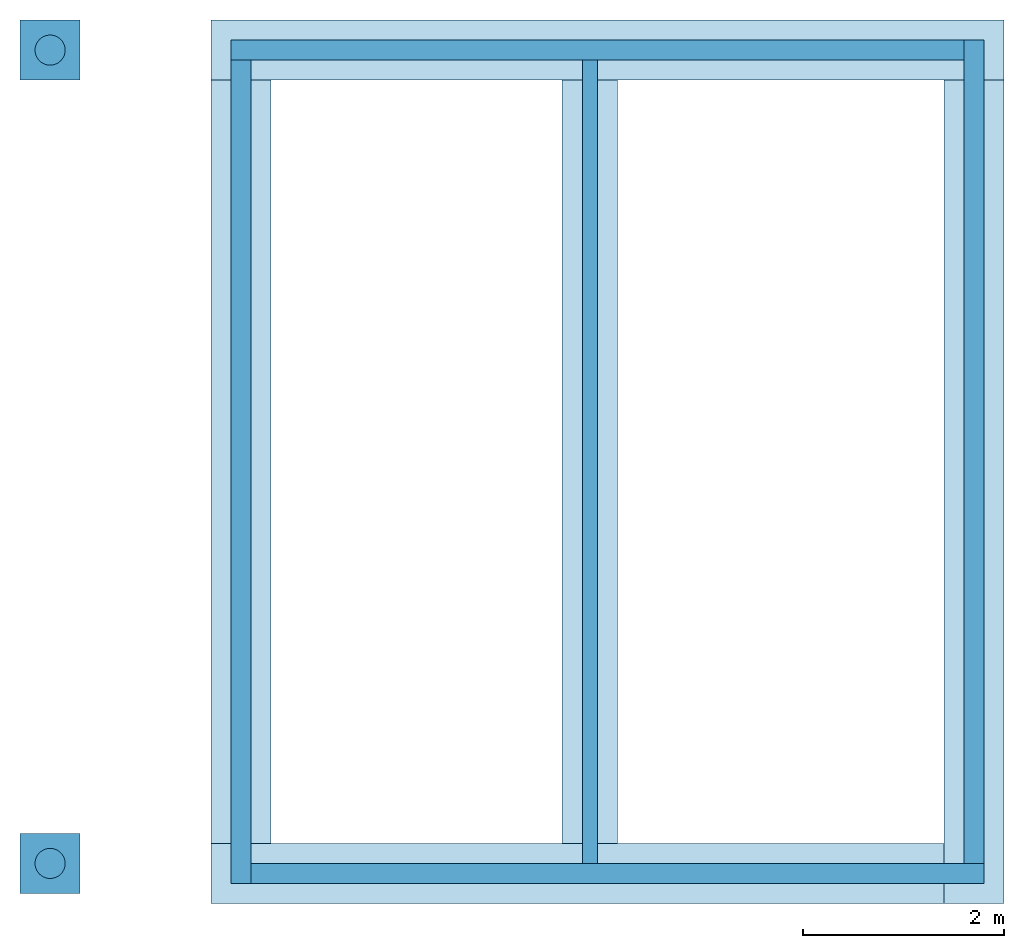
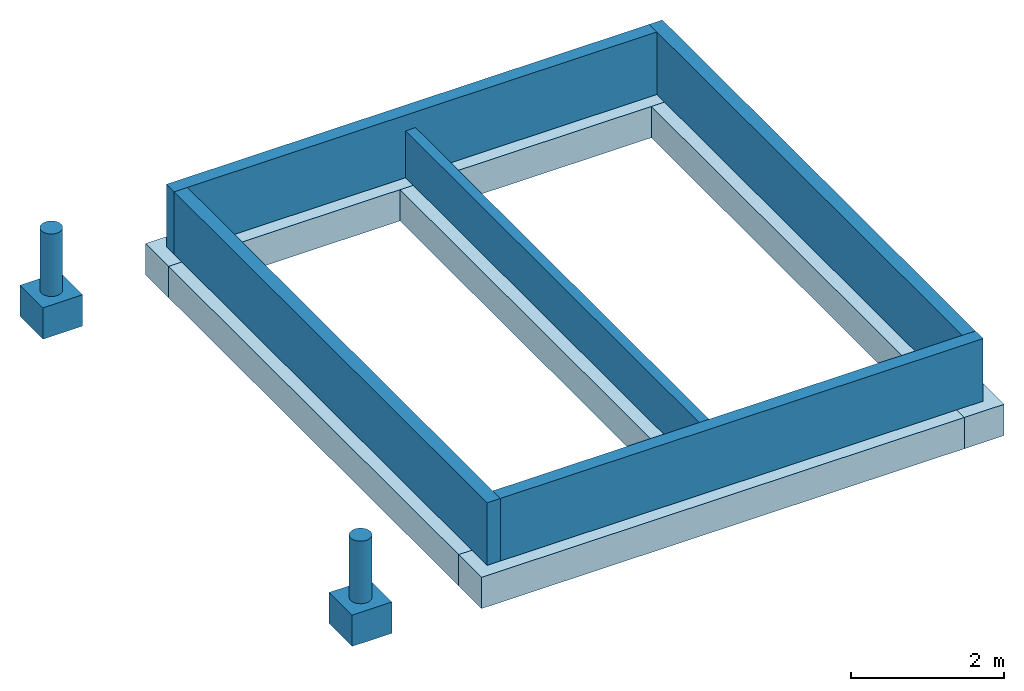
# One storey: 5 footings, 5 walls, 2 columns, 2 slabs.
"""IFC2X3 building model written with IfcOpenShell, lengths in metres."""

from ifc_helpers import new_model, entity, si_unit, converted_unit, derived_unit, direction, frame, frame_2d, origin, origin_2d_with_axis, place, context, subcontext, project, spatial, polyline, circle_curve, parameter, trimmed, segment, composite_curve, rectangle, outline, extrude, clip, bounded_halfspace, source, transform, mapped, material, layer, layer_set, layer_usage, type_object, type_shapes, element, save


model = new_model("IFC2X3")

# Units and contexts
model_context = context("Model", 3, precision=1e-05, world=origin(), true_north=direction((6.12303176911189e-17, 1.0)))
context_of_model = context(None, 3, precision=1e-05, world=origin(), true_north=direction((6.12303176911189e-17, 1.0)))
body_context = subcontext(model_context, "Body", "Model", "MODEL_VIEW")
ifc_project = project(units=[si_unit("LENGTHUNIT", "METRE"), si_unit("AREAUNIT", "SQUARE_METRE"), si_unit("VOLUMEUNIT", "CUBIC_METRE"), converted_unit("PLANEANGLEUNIT", "DEGREE", entity("IfcRatioMeasure", 0.0174532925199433), si_unit("PLANEANGLEUNIT", "RADIAN"), dimensions=[0, 0, 0, 0, 0, 0, 0]), si_unit("MASSUNIT", "GRAM", prefix="KILO"), si_unit("TIMEUNIT", "SECOND"), si_unit("FREQUENCYUNIT", "HERTZ"), si_unit("THERMODYNAMICTEMPERATUREUNIT", "DEGREE_CELSIUS"), derived_unit("THERMALTRANSMITTANCEUNIT", [(si_unit("MASSUNIT", "GRAM", prefix="KILO"), 1), (si_unit("THERMODYNAMICTEMPERATUREUNIT", "KELVIN"), -1), (si_unit("TIMEUNIT", "SECOND"), -3)]), derived_unit("VOLUMETRICFLOWRATEUNIT", [(si_unit("LENGTHUNIT", "METRE"), 3), (si_unit("TIMEUNIT", "SECOND"), -1)]), si_unit("ELECTRICCURRENTUNIT", "AMPERE"), si_unit("ELECTRICVOLTAGEUNIT", "VOLT"), si_unit("POWERUNIT", "WATT"), si_unit("FORCEUNIT", "NEWTON", prefix="KILO"), si_unit("ILLUMINANCEUNIT", "LUX"), si_unit("LUMINOUSFLUXUNIT", "LUMEN"), si_unit("LUMINOUSINTENSITYUNIT", "CANDELA"), si_unit("PRESSUREUNIT", "PASCAL")], contexts=[model_context, context_of_model])

# Site, building, storey
site_placement = place(None, origin())
site = spatial("IfcSite", under=ifc_project, at=site_placement, Name="Default", CompositionType="ELEMENT")
building_placement = place(site_placement, origin())
building = spatial("IfcBuilding", under=site, at=building_placement, CompositionType="ELEMENT")
storey_placement = place(building_placement, frame((0.0, 0.0, -1.0)))
storey = spatial("IfcBuildingStorey", under=building, at=storey_placement, Name="0_Fondations", CompositionType="ELEMENT", Elevation=-1.00000000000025)

# Footings
ifc_material_1 = material(Name="Maçonnerie - Béton")
footing_1_placement = place(storey_placement, origin())
element("IfcFooting", 1, at=footing_1_placement, inside=storey, material=ifc_material_1, Name="Semelle filante:Soubassement 30 cm/30 cm x 50 cm", ObjectType="Semelle filante:Soubassement 30 cm/30 cm x 50 cm", PredefinedType="STRIP_FOOTING", context=body_context, shape_type="SweptSolid", body=[
    extrude(rectangle(XDim=7.9, YDim=0.6, at=frame_2d((0.0437500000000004, 0.149999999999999), x_axis=(1.0, 0.0))), frame((-5.73617592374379, 4.92538687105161, -0.5)), (0.0, 0.0, 1.0), 0.5),
])
footing_2_placement = place(storey_placement, origin())
element("IfcFooting", 2, at=footing_2_placement, inside=storey, material=ifc_material_1, Name="Semelle filante:Soubassement 30 cm/30 cm x 50 cm", ObjectType="Semelle filante:Soubassement 30 cm/30 cm x 50 cm", PredefinedType="STRIP_FOOTING", context=body_context, shape_type="SweptSolid", body=[
    extrude(rectangle(XDim=8.2, YDim=0.6, at=frame_2d((0.7, -0.0599999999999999), x_axis=(1.0, 0.0))), frame((-2.10242592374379, -0.0246131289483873, -0.5), z_axis=(0.0, 0.0, 1.0), x_axis=(0.0, 1.0, 0.0)), (0.0, 0.0, 1.0), 0.5),
])
footing_3_placement = place(storey_placement, origin())
element("IfcFooting", 3, at=footing_3_placement, inside=storey, material=ifc_material_1, Name="Semelle filante:Soubassement 30 cm/30 cm x 50 cm", ObjectType="Semelle filante:Soubassement 30 cm/30 cm x 50 cm", PredefinedType="STRIP_FOOTING", context=body_context, shape_type="SweptSolid", body=[
    extrude(rectangle(XDim=7.3, YDim=0.6, at=frame_2d((0.400000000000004, -0.128571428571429), x_axis=(1.0, 0.0))), frame((-6.39242592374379, -2.99604170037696, -0.5)), (0.0, 0.0, 1.0), 0.5),
])
footing_4_placement = place(storey_placement, origin())
element("IfcFooting", 4, at=footing_4_placement, inside=storey, material=ifc_material_1, Name="Semelle filante:Soubassement 30 cm/30 cm x 50 cm", ObjectType="Semelle filante:Soubassement 30 cm/30 cm x 50 cm", PredefinedType="STRIP_FOOTING", context=body_context, shape_type="SweptSolid", body=[
    extrude(rectangle(XDim=7.6, YDim=0.6, at=origin_2d_with_axis()), frame((-9.34242592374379, 0.975386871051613, -0.5), z_axis=(0.0, 0.0, 1.0), x_axis=(0.0, -1.0, 0.0)), (0.0, 0.0, 1.0), 0.5),
])
footing_5_placement = place(storey_placement, origin())
element("IfcFooting", 5, at=footing_5_placement, inside=storey, material=ifc_material_1, Name="Semelle filante:Soubassement 30 cm/30 cm x 50 cm", ObjectType="Semelle filante:Soubassement 30 cm/30 cm x 50 cm", PredefinedType="STRIP_FOOTING", context=body_context, shape_type="SweptSolid", body=[
    extrude(rectangle(XDim=7.6, YDim=0.550000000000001, at=origin_2d_with_axis()), frame((-5.8674259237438, 0.975386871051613, -0.5), z_axis=(0.0, 0.0, 1.0), x_axis=(0.0, -1.0, 0.0)), (0.0, 0.0, 1.0), 0.5),
])

# Columns
ifc_material_2 = material(Name="Maçonnerie - Béton coulé sur place")
column_type_1 = type_object("IfcColumnType", Name="300mm", PredefinedType="COLUMN", material=ifc_material_2)
shared_shape_1 = source(origin(), body_context, "Body", "SweptSolid", [
    extrude(outline(composite_curve([segment(trimmed(circle_curve(origin_2d_with_axis(), 0.149999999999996), [parameter(180.0)], [parameter(261.818181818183)], True, "PARAMETER"), True, "CONTINUOUS"), segment(polyline([(-0.021347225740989, -0.148473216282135), (0.0213472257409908, -0.148473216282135)]), True, "CONTINUOUS"), segment(trimmed(circle_curve(origin_2d_with_axis(), 0.149999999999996), [parameter(278.181818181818)], [parameter(3.56222124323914e-13)], True, "PARAMETER"), True, "CONTINUOUS"), segment(trimmed(circle_curve(origin_2d_with_axis(), 0.149999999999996), [parameter(0.0)], [parameter(81.8181818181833)], True, "PARAMETER"), True, "CONTINUOUS"), segment(polyline([(0.0213472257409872, 0.148473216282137), (-0.0213472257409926, 0.148473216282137)]), True, "CONTINUOUS"), segment(trimmed(circle_curve(origin_2d_with_axis(), 0.149999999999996), [parameter(98.1818181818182)], [parameter(180.0)], True, "PARAMETER"), True, "CONTINUOUS")], self_intersect=False)), frame((-11.2424259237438, 5.07538687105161, -1.0)), (0.0, 0.0, 1.0), 1.00000000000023),
])
type_shapes(column_type_1, [shared_shape_1])
column_1_placement = place(storey_placement, frame((0.0, 0.0, 1.0)))
element("IfcColumn", 6, at=column_1_placement, inside=storey, type_object=column_type_1, material=ifc_material_2, Name="Poteau béton - Arrondi:300mm", ObjectType="300mm", context=body_context, shape_type="MappedRepresentation", body=[
    mapped(shared_shape_1, transform((0.0, 0.0, 0.0), scale=1.0)),
])
column_type_2 = type_object("IfcColumnType", Name="300mm", PredefinedType="COLUMN", material=ifc_material_2)
shared_shape_2 = source(origin(), body_context, "Body", "SweptSolid", [
    extrude(outline(composite_curve([segment(trimmed(circle_curve(origin_2d_with_axis(), 0.149999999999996), [parameter(180.0)], [parameter(261.818181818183)], True, "PARAMETER"), True, "CONTINUOUS"), segment(polyline([(-0.0213472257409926, -0.148473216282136), (0.0213472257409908, -0.148473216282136)]), True, "CONTINUOUS"), segment(trimmed(circle_curve(origin_2d_with_axis(), 0.149999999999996), [parameter(278.181818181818)], [parameter(3.56222124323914e-13)], True, "PARAMETER"), True, "CONTINUOUS"), segment(trimmed(circle_curve(origin_2d_with_axis(), 0.149999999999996), [parameter(0.0)], [parameter(81.8181818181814)], True, "PARAMETER"), True, "CONTINUOUS"), segment(polyline([(0.0213472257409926, 0.148473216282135), (-0.0213472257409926, 0.148473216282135)]), True, "CONTINUOUS"), segment(trimmed(circle_curve(origin_2d_with_axis(), 0.149999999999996), [parameter(98.1818181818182)], [parameter(180.0)], True, "PARAMETER"), True, "CONTINUOUS")], self_intersect=False)), frame((-11.2424259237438, -3.02461312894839, -1.0)), (0.0, 0.0, 1.0), 1.00000000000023),
])
type_shapes(column_type_2, [shared_shape_2])
column_2_placement = place(storey_placement, frame((0.0, 0.0, 1.0)))
element("IfcColumn", 7, at=column_2_placement, inside=storey, type_object=column_type_2, material=ifc_material_2, Name="Poteau béton - Arrondi:300mm", ObjectType="300mm", context=body_context, shape_type="MappedRepresentation", body=[
    mapped(shared_shape_2, transform((0.0, 0.0, 0.0), scale=1.0)),
])

# Slabs
ifc_material_3 = material(Name="Béton - Béton coulé sur place")
slab_1_placement = place(storey_placement, origin())
element("IfcSlab", 8, at=slab_1_placement, inside=storey, material=ifc_material_3, Name="Base rectangulaire:1800mm x 1200mm x 450mm", ObjectType="Base rectangulaire:1800mm x 1200mm x 450mm", PredefinedType="FLOOR", context=body_context, shape_type="SweptSolid", body=[
    extrude(rectangle(XDim=0.6, YDim=0.6, at=frame_2d((-1.08246744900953e-15, 0.0), x_axis=(1.0, 0.0))), frame((-11.2424259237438, 5.07538687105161, -0.5), z_axis=(0.0, 0.0, 1.0), x_axis=(-1.0, 0.0, 0.0)), (0.0, 0.0, 1.0), 0.5),
    extrude(rectangle(XDim=0.6, YDim=0.6, at=frame_2d((-1.08246744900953e-15, 0.0), x_axis=(1.0, 0.0))), frame((-11.2424259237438, 5.07538687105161, -0.5), z_axis=(0.0, 0.0, 1.0), x_axis=(-1.0, 0.0, 0.0)), (0.0, 0.0, 1.0), 0.5),
])
slab_2_placement = place(storey_placement, origin())
element("IfcSlab", 9, at=slab_2_placement, inside=storey, material=ifc_material_3, Name="Base rectangulaire:1800mm x 1200mm x 450mm", ObjectType="Base rectangulaire:1800mm x 1200mm x 450mm", PredefinedType="FLOOR", context=body_context, shape_type="SweptSolid", body=[
    extrude(rectangle(XDim=0.6, YDim=0.6, at=frame_2d((-1.08246744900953e-15, 0.0), x_axis=(1.0, 0.0))), frame((-11.2424259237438, -3.02461312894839, -0.5), z_axis=(0.0, 0.0, 1.0), x_axis=(-1.0, 0.0, 0.0)), (0.0, 0.0, 1.0), 0.5),
    extrude(rectangle(XDim=0.6, YDim=0.6, at=frame_2d((-1.08246744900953e-15, 0.0), x_axis=(1.0, 0.0))), frame((-11.2424259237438, -3.02461312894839, -0.5), z_axis=(0.0, 0.0, 1.0), x_axis=(-1.0, 0.0, 0.0)), (0.0, 0.0, 1.0), 0.5),
])

# Walls
ifc_material_4 = material(Name="Mur par défaut")
ifc_layer_1 = layer(ifc_material_4, 0.2)
ifc_layer_set_1 = layer_set([ifc_layer_1], Name="Mur de base:Générique - Ext. 200 mm")
ifc_layer_usage_1 = layer_usage(ifc_layer_set_1, "AXIS2", "NEGATIVE", 0.1)
wall_type_1 = type_object("IfcWallType", Name="Mur de base:Générique - Ext. 200 mm", PredefinedType="STANDARD", material=ifc_layer_set_1)
wall_1_placement = place(storey_placement, frame((-9.44242592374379, 5.07538687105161, 0.0)))
element("IfcWallStandardCase", 10, at=wall_1_placement, inside=storey, type_object=wall_type_1, material=ifc_layer_usage_1, Name="Mur de base:Générique - Ext. 200 mm", ObjectType="Mur de base:Générique - Ext. 200 mm", context=body_context, shape_type="SweptSolid", body=[
    extrude(rectangle(XDim=7.3, YDim=0.2, at=frame_2d((3.65, 0.0), x_axis=(-1.0, 0.0))), origin(), (0.0, 0.0, 1.0), 1.00000000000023),
])
ifc_layer_usage_2 = layer_usage(ifc_layer_set_1, "AXIS2", "NEGATIVE", 0.1)
wall_2_placement = place(storey_placement, frame((-9.34242592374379, -3.22461312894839, 0.0), z_axis=(0.0, 0.0, 1.0), x_axis=(0.0, 1.0, 0.0)))
element("IfcWallStandardCase", 11, at=wall_2_placement, inside=storey, type_object=wall_type_1, material=ifc_layer_usage_2, Name="Mur de base:Générique - Ext. 200 mm", ObjectType="Mur de base:Générique - Ext. 200 mm", context=body_context, shape_type="SweptSolid", body=[
    extrude(rectangle(XDim=8.2, YDim=0.2, at=frame_2d((4.1, 0.0), x_axis=(-1.0, 0.0))), origin(), (0.0, 0.0, 1.0), 1.00000000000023),
])
ifc_layer_usage_3 = layer_usage(ifc_layer_set_1, "AXIS2", "NEGATIVE", 0.1)
wall_3_placement = place(storey_placement, frame((-1.94242592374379, -3.12461312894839, 0.0), z_axis=(0.0, 0.0, 1.0), x_axis=(-1.0, 0.0, 0.0)))
element("IfcWallStandardCase", 12, at=wall_3_placement, inside=storey, type_object=wall_type_1, material=ifc_layer_usage_3, Name="Mur de base:Générique - Ext. 200 mm", ObjectType="Mur de base:Générique - Ext. 200 mm", context=body_context, shape_type="SweptSolid", body=[
    extrude(rectangle(XDim=7.3, YDim=0.2, at=frame_2d((3.65, 0.0), x_axis=(-1.0, 0.0))), origin(), (0.0, 0.0, 1.0), 1.00000000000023),
])
ifc_layer_usage_4 = layer_usage(ifc_layer_set_1, "AXIS2", "NEGATIVE", 0.1)
wall_4_placement = place(storey_placement, frame((-2.04242592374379, 5.17538687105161, 0.0), z_axis=(0.0, 0.0, 1.0), x_axis=(0.0, -1.0, 0.0)))
element("IfcWallStandardCase", 13, at=wall_4_placement, inside=storey, type_object=wall_type_1, material=ifc_layer_usage_4, Name="Mur de base:Générique - Ext. 200 mm", ObjectType="Mur de base:Générique - Ext. 200 mm", context=body_context, shape_type="SweptSolid", body=[
    extrude(rectangle(XDim=8.2, YDim=0.2, at=frame_2d((4.1, 0.0), x_axis=(-1.0, 0.0))), origin(), (0.0, 0.0, 1.0), 1.00000000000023),
])
ifc_layer_2 = layer(ifc_material_4, 0.15)
ifc_layer_set_2 = layer_set([ifc_layer_2], Name="Mur de base:Générique - Ext. 150 mm")
ifc_layer_usage_5 = layer_usage(ifc_layer_set_2, "AXIS2", "NEGATIVE", 0.075)
wall_type_2 = type_object("IfcWallType", Name="Mur de base:Générique - Ext. 150 mm", PredefinedType="STANDARD", material=ifc_layer_set_2)
wall_5_placement = place(storey_placement, frame((-5.86742592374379, 4.97538687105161, 0.0), z_axis=(0.0, 0.0, 1.0), x_axis=(0.0, -1.0, 0.0)))
element("IfcWallStandardCase", 14, at=wall_5_placement, inside=storey, type_object=wall_type_2, material=ifc_layer_usage_5, Name="Mur de base:Générique - Ext. 150 mm", ObjectType="Mur de base:Générique - Ext. 150 mm", context=body_context, shape_type="Clipping", body=[
    clip(extrude(rectangle(XDim=8.0, YDim=0.150000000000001, at=frame_2d((4.0, -1.52655665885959e-16), x_axis=(-1.0, 0.0))), origin(), (0.0, 0.0, 1.0), 0.750000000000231), bounded_halfspace(frame((0.0, -0.0749999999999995, 0.750000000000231), z_axis=(0.0, 0.0, -1.0), x_axis=(1.0, 0.0, 0.0)), True, frame((0.0, -0.0749999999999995, 0.750000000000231)), polyline([(0.0, 0.0), (8.0, 0.0), (8.0, 0.149999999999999), (0.0, 0.149999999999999), (0.0, 0.0)]))),
])

save(model, "model.ifc")
